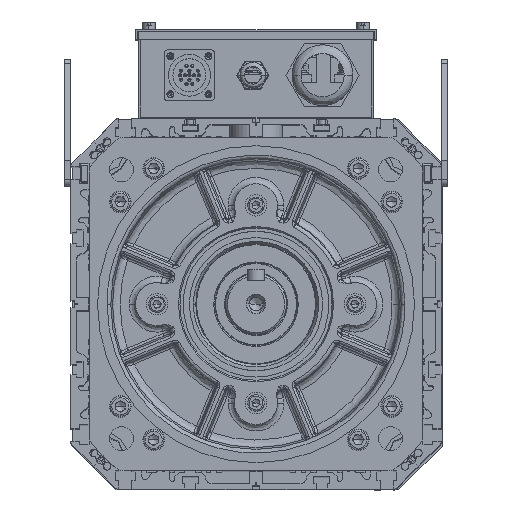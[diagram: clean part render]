
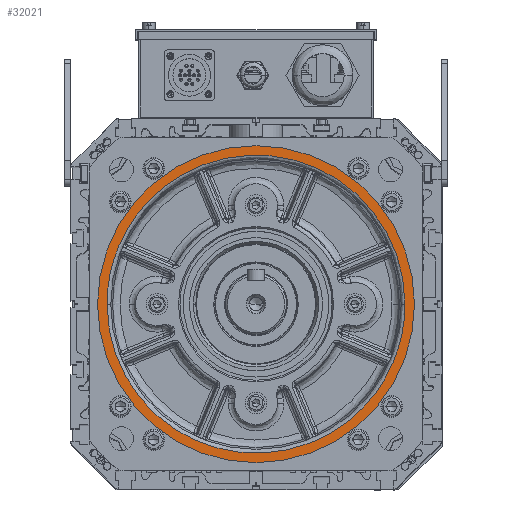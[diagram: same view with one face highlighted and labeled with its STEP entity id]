
A CAD part, top view. The second image highlights one B-rep face of the part: STEP entity #32021.
In plain terms, the highlighted planar face has unit normal (0, 0, 1) as drawn and (0, 0, -1) by its records, which use the part's own axes.
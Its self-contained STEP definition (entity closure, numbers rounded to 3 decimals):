
#1322 = CARTESIAN_POINT ( 'NONE',  ( -66.798, 5.856, 132.5 ) ) ;
#2972 =( BOUNDED_CURVE ( )  B_SPLINE_CURVE ( 3, ( #109726, #109205, #75094, #38911 ),
 .UNSPECIFIED., .F., .F. ) 
 B_SPLINE_CURVE_WITH_KNOTS ( ( 4, 4 ),
 ( 0., 1. ),
 .UNSPECIFIED. ) 
 CURVE ( )  GEOMETRIC_REPRESENTATION_ITEM ( )  RATIONAL_B_SPLINE_CURVE ( ( 1., 0.333, 0.333, 1. ) ) 
 REPRESENTATION_ITEM ( '' )  );
#11183 = PLANE ( 'NONE',  #59517 ) ;
#13164 = CARTESIAN_POINT ( 'NONE',  ( 175.72, 5.856, 132.5 ) ) ;
#18685 = EDGE_CURVE ( 'NONE', #128195, #124517, #2972, .T. ) ;
#18913 =( BOUNDED_CURVE ( )  B_SPLINE_CURVE ( 3, ( #84055, #70687, #131643, #13164 ),
 .UNSPECIFIED., .F., .F. ) 
 B_SPLINE_CURVE_WITH_KNOTS ( ( 4, 4 ),
 ( 0., 1. ),
 .UNSPECIFIED. ) 
 CURVE ( )  GEOMETRIC_REPRESENTATION_ITEM ( )  RATIONAL_B_SPLINE_CURVE ( ( 1., 0.333, 0.333, 1. ) ) 
 REPRESENTATION_ITEM ( '' )  );
#23821 = CARTESIAN_POINT ( 'NONE',  ( 58.202, 5.856, 132.5 ) ) ;
#27188 = VERTEX_POINT ( 'NONE', #1322 ) ;
#32021 = ADVANCED_FACE ( 'NONE', ( #33019, #131132 ), #11183, .F. ) ;
#33019 = FACE_OUTER_BOUND ( 'NONE', #40617, .T. ) ;
#38911 = CARTESIAN_POINT ( 'NONE',  ( -59.315, 5.856, 132.5 ) ) ;
#40617 = EDGE_LOOP ( 'NONE', ( #136683, #146591 ) ) ;
#41897 = EDGE_CURVE ( 'NONE', #27188, #104735, #48425, .T. ) ;
#45892 = DIRECTION ( 'NONE',  ( 1., 0., 0. ) ) ;
#47124 = DIRECTION ( 'NONE',  ( 0., 0., 1. ) ) ;
#48425 = CIRCLE ( 'NONE', #136983, 125. ) ;
#50456 = EDGE_CURVE ( 'NONE', #124517, #128195, #18913, .T. ) ;
#51464 = DIRECTION ( 'NONE',  ( -1., 0., 0. ) ) ;
#51624 = ORIENTED_EDGE ( 'NONE', *, *, #50456, .F. ) ;
#58042 = DIRECTION ( 'NONE',  ( -1., 0., 0. ) ) ;
#58348 = CARTESIAN_POINT ( 'NONE',  ( 58.202, 130.856, 132.5 ) ) ;
#59517 = AXIS2_PLACEMENT_3D ( 'NONE', #58348, #120352, #45892 ) ;
#62263 = CARTESIAN_POINT ( 'NONE',  ( 175.72, 5.856, 132.5 ) ) ;
#63378 = CARTESIAN_POINT ( 'NONE',  ( 58.202, 5.856, 132.5 ) ) ;
#70687 = CARTESIAN_POINT ( 'NONE',  ( -59.315, 240.89, 132.5 ) ) ;
#73231 = AXIS2_PLACEMENT_3D ( 'NONE', #63378, #75211, #51464 ) ;
#75094 = CARTESIAN_POINT ( 'NONE',  ( -59.315, -229.179, 132.5 ) ) ;
#75211 = DIRECTION ( 'NONE',  ( 0., 0., 1. ) ) ;
#77229 = CARTESIAN_POINT ( 'NONE',  ( -59.315, 5.856, 132.5 ) ) ;
#84055 = CARTESIAN_POINT ( 'NONE',  ( -59.315, 5.856, 132.5 ) ) ;
#91170 = CIRCLE ( 'NONE', #73231, 125. ) ;
#98905 = ORIENTED_EDGE ( 'NONE', *, *, #18685, .F. ) ;
#104735 = VERTEX_POINT ( 'NONE', #128058 ) ;
#109205 = CARTESIAN_POINT ( 'NONE',  ( 175.72, -229.179, 132.5 ) ) ;
#109726 = CARTESIAN_POINT ( 'NONE',  ( 175.72, 5.856, 132.5 ) ) ;
#116611 = EDGE_LOOP ( 'NONE', ( #98905, #51624 ) ) ;
#120352 = DIRECTION ( 'NONE',  ( 0., 0., 1. ) ) ;
#124517 = VERTEX_POINT ( 'NONE', #77229 ) ;
#128058 = CARTESIAN_POINT ( 'NONE',  ( 183.202, 5.856, 132.5 ) ) ;
#128195 = VERTEX_POINT ( 'NONE', #62263 ) ;
#131132 = FACE_BOUND ( 'NONE', #116611, .T. ) ;
#131643 = CARTESIAN_POINT ( 'NONE',  ( 175.72, 240.89, 132.5 ) ) ;
#136683 = ORIENTED_EDGE ( 'NONE', *, *, #41897, .F. ) ;
#136983 = AXIS2_PLACEMENT_3D ( 'NONE', #23821, #47124, #58042 ) ;
#144675 = EDGE_CURVE ( 'NONE', #104735, #27188, #91170, .T. ) ;
#146591 = ORIENTED_EDGE ( 'NONE', *, *, #144675, .F. ) ;
